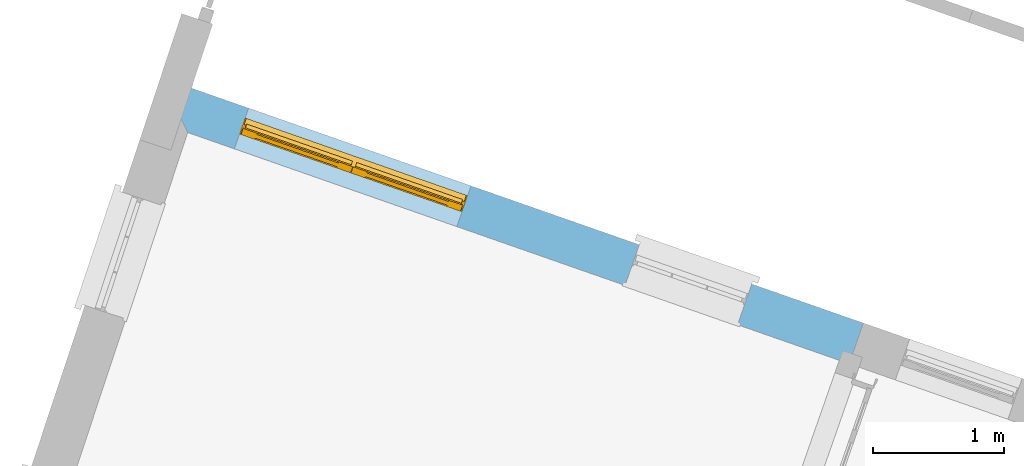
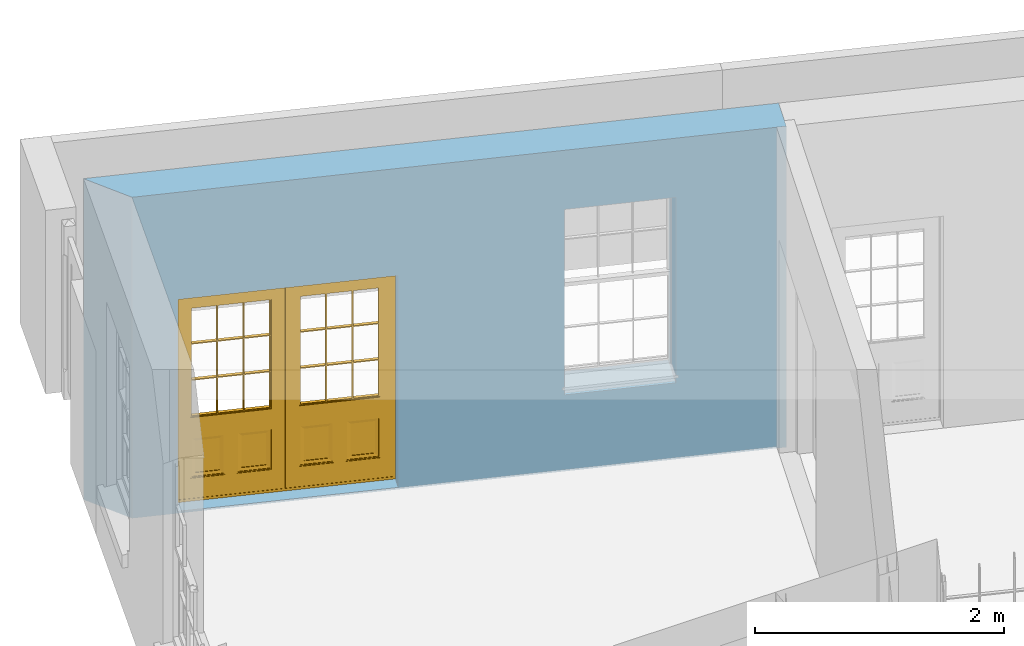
# One storey, part 8 of 10: 1 door, 2 openings, plus 1 element that does not belong to this part.
"""IFC4 building model written with IfcOpenShell, lengths in metres."""

from ifc_helpers import new_model, si_unit, frame, origin, origin_with_axes, place, context, subcontext, project, spatial, polyline, outline, extrude, faceted_brep, source, transform, mapped, material, layer, layer_set, layer_usage, type_object, type_shapes, element, fill, save


model = new_model("IFC4")

# Units and contexts
model_context = context("Model", 3, world=origin_with_axes())
body_context = subcontext(model_context, "Body", "Model", "MODEL_VIEW")
ifc_project = project(units=[si_unit("PLANEANGLEUNIT", "RADIAN"), si_unit("MASSUNIT", "GRAM", prefix="KILO"), si_unit("FORCEUNIT", "NEWTON", prefix="KILO"), si_unit("LENGTHUNIT", "METRE"), si_unit("AREAUNIT", "SQUARE_METRE"), si_unit("VOLUMEUNIT", "CUBIC_METRE")], contexts=[model_context, model_context])

# Sites, building, storey
site_1_placement = place(None, origin_with_axes())
site_1 = spatial("IfcSite", under=ifc_project, at=site_1_placement, Name="Tamar")
site_2_placement = place(site_1_placement, origin_with_axes())
site_2 = spatial("IfcSite", under=site_1, at=site_2_placement, Name="Site plot-15", CompositionType="ELEMENT")
building_placement = place(None, origin_with_axes())
building = spatial("IfcBuilding", under=site_2, at=building_placement, Name="Building plot-15", CompositionType="ELEMENT")
storey_placement = place(None, frame((0.0, 0.0, 26.8), z_axis=(0.0, 0.0, 1.0), x_axis=(1.0, 0.0, 0.0)))
storey = spatial("IfcBuildingStorey", under=building, at=storey_placement, Name="plot-15 0", CompositionType="ELEMENT", Elevation=26.8)

# Wall, openings, door
ifc_material = material(Name="Masonry")
ifc_layer = layer(ifc_material, 0.33, ventilated=False)
ifc_layer_set = layer_set([ifc_layer], Name="exterior_0.08_0.25")
ifc_layer_usage = layer_usage(ifc_layer_set, "AXIS2", "POSITIVE", -0.25)
wall_type = type_object("IfcWallType", Name="exterior_0.08_0.25", PredefinedType="SOLIDWALL", material=ifc_layer_set)
wall_placement = place(storey_placement, frame((263.78081158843, 309.226685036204, 0.0), z_axis=(0.0, 0.0, 1.0), x_axis=(-0.943980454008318, 0.330001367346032, 0.0)))
wall = element("IfcWall", 1, at=wall_placement, inside=storey, type_object=wall_type, material=ifc_layer_usage, Name="exterior", context=body_context, shape_type="SweptSolid", body=[
    extrude(outline(polyline([(-1.12572037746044e-14, 0.0800000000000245), (-6.03540739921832e-15, -0.250000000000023), (5.68693408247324, -0.250000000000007), (5.3516759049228, 0.0800000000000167), (-1.12572037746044e-14, 0.0800000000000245)])), origin_with_axes(), (0.0, 0.0, 1.0), 3.15),
])
opening_1_placement = place(wall_placement, frame((0.90323765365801, 0.0, 0.75)))
element("IfcOpeningElement", 2, at=opening_1_placement, cuts=wall, Name="My Opening", ObjectType="Opening", context=body_context, shape_type="SweptSolid", body=[
    extrude(outline(polyline([(0.0, -0.270000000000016), (0.909999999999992, -0.269999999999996), (0.909999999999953, 1.10000000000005), (-3.8746783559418e-14, 1.10000000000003), (0.0, -0.270000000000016)])), origin_with_axes(), (0.0, 0.0, 1.0), 1.82),
])
opening_2_placement = place(wall_placement, frame((3.17471296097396, 0.0, 0.0199999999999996)))
opening_2 = element("IfcOpeningElement", 3, at=opening_2_placement, cuts=wall, Name="My Opening", ObjectType="Opening", context=body_context, shape_type="SweptSolid", body=[
    extrude(outline(polyline([(0.0, -0.270000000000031), (1.8, -0.27), (1.79999999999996, 1.10000000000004), (-3.90798504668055e-14, 1.10000000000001), (0.0, -0.270000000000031)])), origin_with_axes(), (0.0, 0.0, 1.0), 2.08),
])
door_type = type_object("IfcDoorType", Name="door_panelled_double", OperationType="SINGLE_SWING_LEFT", PredefinedType="NOTDEFINED")
shared_shape = source(origin(), body_context, "Body", "Brep", [
    faceted_brep([(0.545, 0.195, 0.265), (0.745, 0.195, 0.265), (0.745, 0.2, 0.265), (0.545, 0.2, 0.265), (0.745, 0.2, 0.58), (0.545, 0.2, 0.58), (0.545, 0.195, 0.58), (0.515, 0.19, 0.235), (0.775, 0.19, 0.235), (0.745, 0.195, 0.58), (0.515, 0.19, 0.61), (0.515, 0.185, 0.235), (0.775, 0.185, 0.235), (0.775, 0.19, 0.61), (0.515, 0.185, 0.61), (0.785, 0.185, 0.225), (0.505, 0.185, 0.225), (0.775, 0.185, 0.61), (0.505, 0.185, 0.62), (0.785, 0.185, 0.62), (0.505, 0.18, 0.225), (0.785, 0.18, 0.225), (0.505, 0.18, 0.62), (0.785, 0.18, 0.62), (0.883, 0.18, 0.075), (0.898, 0.18, 0.075), (0.405, 0.18, 0.62), (0.405, 0.18, 0.225), (0.027, 0.18, 0.075), (0.785, 0.18, 0.82), (0.125, 0.18, 0.82), (0.405, 0.185, 0.62), (0.405, 0.185, 0.225), (0.898, 0.18, 2.068), (0.027, 0.17, 0.075), (0.883, 0.17, 0.075), (0.125, 0.18, 0.225), (0.012, 0.18, 0.075), (0.785, 0.19, 0.82), (0.125, 0.19, 0.82), (0.125, 0.18, 0.62), (0.125, 0.185, 0.62), (0.395, 0.185, 0.61), (0.395, 0.185, 0.235), (0.125, 0.185, 0.225), (0.785, 0.18, 1.895), (0.027, 0.14, 0.045), (0.883, 0.14, 0.045), (0.558333, 0.19, 0.83), (0.351667, 0.19, 0.83), (0.125, 0.18, 1.895), (0.125, 0.19, 1.895), (0.785, 0.19, 1.895), (0.012, 0.18, 2.068), (0.135, 0.185, 0.61), (0.395, 0.19, 0.61), (0.395, 0.19, 0.235), (0.135, 0.185, 0.235), (0.027, 0.14, 0.027), (0.883, 0.14, 0.027), (0.568333, 0.19, 0.83), (0.558333, 0.22, 0.83), (0.351667, 0.22, 0.83), (0.341667, 0.19, 0.83), (0.135, 0.19, 1.185), (0.135, 0.19, 1.53), (0.775, 0.19, 1.53), (0.775, 0.19, 1.185), (0.135, 0.19, 0.61), (0.365, 0.195, 0.58), (0.365, 0.195, 0.265), (0.135, 0.19, 0.235), (0.568333, 0.19, 1.175), (0.558333, 0.19, 1.175), (0.775, 0.19, 0.83), (0.558333, 0.22, 1.175), (0.785, 0.22, 0.82), (0.125, 0.22, 0.82), (0.351667, 0.22, 1.175), (0.351667, 0.19, 1.175), (0.341667, 0.19, 1.175), (0.135, 0.19, 0.83), (0.135, 0.19, 1.175), (0.135, 0.22, 1.185), (0.135, 0.22, 1.53), (0.135, 0.19, 1.54), (0.351667, 0.19, 1.885), (0.558333, 0.19, 1.885), (0.775, 0.22, 1.53), (0.775, 0.22, 1.185), (0.775, 0.19, 1.175), (0.775, 0.19, 1.54), (0.165, 0.195, 0.58), (0.365, 0.2, 0.58), (0.365, 0.2, 0.265), (0.165, 0.195, 0.265), (0.568333, 0.22, 0.83), (0.568333, 0.22, 1.175), (0.568333, 0.19, 1.185), (0.558333, 0.19, 1.185), (0.775, 0.22, 0.83), (0.785, 0.23, 0.82), (0.125, 0.23, 0.82), (0.341667, 0.22, 0.83), (0.341667, 0.22, 1.175), (0.351667, 0.19, 1.185), (0.341667, 0.19, 1.185), (0.135, 0.22, 0.83), (0.341667, 0.22, 1.185), (0.125, 0.22, 1.895), (0.341667, 0.22, 1.53), (0.341667, 0.19, 1.53), (0.135, 0.19, 1.885), (0.341667, 0.19, 1.54), (0.341667, 0.19, 1.885), (0.558333, 0.22, 1.885), (0.351667, 0.22, 1.885), (0.568333, 0.19, 1.885), (0.785, 0.22, 1.895), (0.568333, 0.22, 1.185), (0.568333, 0.19, 1.53), (0.568333, 0.22, 1.53), (0.568333, 0.19, 1.54), (0.775, 0.19, 1.885), (0.165, 0.2, 0.58), (0.165, 0.2, 0.265), (0.775, 0.22, 1.175), (0.558333, 0.19, 1.53), (0.351667, 0.22, 1.185), (0.558333, 0.22, 1.185), (0.505, 0.23, 0.62), (0.405, 0.23, 0.62), (0.125, 0.23, 1.895), (0.785, 0.23, 1.895), (0.351667, 0.19, 1.53), (0.135, 0.22, 1.175), (0.135, 0.22, 1.54), (0.341667, 0.22, 1.54), (0.135, 0.22, 1.885), (0.351667, 0.19, 1.54), (0.558333, 0.22, 1.54), (0.558333, 0.19, 1.54), (0.351667, 0.22, 1.54), (0.775, 0.22, 1.54), (0.568333, 0.22, 1.54), (0.775, 0.22, 1.885), (0.558333, 0.22, 1.53), (0.405, 0.23, 0.225), (0.505, 0.23, 0.225), (0.125, 0.23, 0.62), (0.785, 0.23, 0.62), (0.012, 0.23, 2.068), (0.898, 0.23, 2.068), (0.351667, 0.22, 1.53), (0.341667, 0.22, 1.885), (0.568333, 0.22, 1.885), (0.405, 0.225, 0.225), (0.405, 0.225, 0.62), (0.505, 0.225, 0.62), (0.505, 0.225, 0.225), (0.898, 0.23, 0.027), (0.012, 0.23, 0.027), (0.125, 0.225, 0.62), (0.785, 0.225, 0.62), (0.395, 0.225, 0.235), (0.395, 0.225, 0.61), (0.125, 0.23, 0.225), (0.125, 0.225, 0.225), (0.515, 0.225, 0.61), (0.515, 0.225, 0.235), (0.785, 0.23, 0.225), (0.785, 0.225, 0.225), (0.135, 0.225, 0.61), (0.775, 0.225, 0.61), (0.135, 0.225, 0.235), (0.395, 0.22, 0.235), (0.395, 0.22, 0.61), (0.515, 0.22, 0.61), (0.515, 0.22, 0.235), (0.775, 0.225, 0.235), (0.135, 0.22, 0.61), (0.775, 0.22, 0.61), (0.135, 0.22, 0.235), (0.365, 0.215, 0.265), (0.365, 0.215, 0.58), (0.545, 0.215, 0.58), (0.545, 0.215, 0.265), (0.775, 0.22, 0.235), (0.165, 0.215, 0.58), (0.745, 0.215, 0.58), (0.165, 0.215, 0.265), (0.365, 0.21, 0.58), (0.365, 0.21, 0.265), (0.545, 0.21, 0.58), (0.545, 0.21, 0.265), (0.745, 0.215, 0.265), (0.165, 0.21, 0.58), (0.745, 0.21, 0.58), (0.165, 0.21, 0.265), (0.745, 0.21, 0.265), (1.775, 0.178, 0.025), (0.025, 0.178, 0.025), (0.025, 0.15, 0.025), (1.775, 0.15, 0.025), (1.79, 0.23, 0.025), (0.01, 0.23, 0.025), (1.79, 0.178, 0.025), (1.8, 0.23, 0.0), (0.0, 0.23, 0.0), (0.01, 0.178, 0.025), (1.79, 0.178, 2.07), (1.79, 0.23, 2.07), (1.775, 0.178, 2.055), (1.8, 0.23, 2.08), (0.01, 0.23, 2.07), (0.0, 0.23, 2.08), (0.01, 0.178, 2.07), (0.025, 0.178, 2.055), (0.0, 0.1, 2.08), (1.8, 0.1, 2.08), (0.01, 0.1, 2.07), (1.79, 0.1, 2.07), (0.01, 0.15, 2.07), (1.79, 0.15, 2.07), (0.0, 0.1, 0.0), (1.8, 0.1, 0.0), (0.01, 0.1, 0.025), (1.79, 0.1, 0.025), (0.01, 0.15, 0.025), (0.025, 0.15, 2.055), (1.79, 0.15, 0.025), (1.775, 0.15, 2.055), (0.898, 0.18, 0.027), (0.012, 0.18, 0.027), (0.883, 0.18, 0.027), (0.027, 0.18, 0.027), (1.435, 0.195, 0.265), (1.635, 0.195, 0.265), (1.635, 0.2, 0.265), (1.435, 0.2, 0.265), (1.635, 0.2, 0.58), (1.435, 0.2, 0.58), (1.435, 0.195, 0.58), (1.405, 0.19, 0.235), (1.665, 0.19, 0.235), (1.635, 0.195, 0.58), (1.405, 0.19, 0.61), (1.405, 0.185, 0.235), (1.665, 0.185, 0.235), (1.665, 0.19, 0.61), (1.405, 0.185, 0.61), (1.675, 0.185, 0.225), (1.395, 0.185, 0.225), (1.665, 0.185, 0.61), (1.395, 0.185, 0.62), (1.675, 0.185, 0.62), (1.395, 0.18, 0.225), (1.675, 0.18, 0.225), (1.395, 0.18, 0.62), (1.675, 0.18, 0.62), (1.773, 0.18, 0.075), (1.788, 0.18, 0.075), (1.295, 0.18, 0.62), (1.295, 0.18, 0.225), (0.917, 0.18, 0.075), (1.675, 0.18, 0.82), (1.015, 0.18, 0.82), (1.295, 0.185, 0.62), (1.295, 0.185, 0.225), (1.788, 0.18, 2.068), (0.917, 0.17, 0.075), (1.773, 0.17, 0.075), (1.015, 0.18, 0.225), (0.902, 0.18, 0.075), (1.675, 0.19, 0.82), (1.015, 0.19, 0.82), (1.015, 0.18, 0.62), (1.015, 0.185, 0.62), (1.285, 0.185, 0.61), (1.285, 0.185, 0.235), (1.015, 0.185, 0.225), (1.675, 0.18, 1.895), (0.917, 0.14, 0.045), (1.773, 0.14, 0.045), (1.448333, 0.19, 0.83), (1.241667, 0.19, 0.83), (1.015, 0.18, 1.895), (1.015, 0.19, 1.895), (1.675, 0.19, 1.895), (0.902, 0.18, 2.068), (1.025, 0.185, 0.61), (1.285, 0.19, 0.61), (1.285, 0.19, 0.235), (1.025, 0.185, 0.235), (0.917, 0.14, 0.027), (1.773, 0.14, 0.027), (1.458333, 0.19, 0.83), (1.448333, 0.22, 0.83), (1.241667, 0.22, 0.83), (1.231667, 0.19, 0.83), (1.025, 0.19, 1.185), (1.025, 0.19, 1.53), (1.665, 0.19, 1.53), (1.665, 0.19, 1.185), (1.025, 0.19, 0.61), (1.255, 0.195, 0.58), (1.255, 0.195, 0.265), (1.025, 0.19, 0.235), (1.458333, 0.19, 1.175), (1.448333, 0.19, 1.175), (1.665, 0.19, 0.83), (1.448333, 0.22, 1.175), (1.675, 0.22, 0.82), (1.015, 0.22, 0.82), (1.241667, 0.22, 1.175), (1.241667, 0.19, 1.175), (1.231667, 0.19, 1.175), (1.025, 0.19, 0.83), (1.025, 0.19, 1.175), (1.025, 0.22, 1.185), (1.025, 0.22, 1.53), (1.025, 0.19, 1.54), (1.241667, 0.19, 1.885), (1.448333, 0.19, 1.885), (1.665, 0.22, 1.53), (1.665, 0.22, 1.185), (1.665, 0.19, 1.175), (1.665, 0.19, 1.54), (1.055, 0.195, 0.58), (1.255, 0.2, 0.58), (1.255, 0.2, 0.265), (1.055, 0.195, 0.265), (1.458333, 0.22, 0.83), (1.458333, 0.22, 1.175), (1.458333, 0.19, 1.185), (1.448333, 0.19, 1.185), (1.665, 0.22, 0.83), (1.675, 0.23, 0.82), (1.015, 0.23, 0.82), (1.231667, 0.22, 0.83), (1.231667, 0.22, 1.175), (1.241667, 0.19, 1.185), (1.231667, 0.19, 1.185), (1.025, 0.22, 0.83), (1.231667, 0.22, 1.185), (1.015, 0.22, 1.895), (1.231667, 0.22, 1.53), (1.231667, 0.19, 1.53), (1.025, 0.19, 1.885), (1.231667, 0.19, 1.54), (1.231667, 0.19, 1.885), (1.448333, 0.22, 1.885), (1.241667, 0.22, 1.885), (1.458333, 0.19, 1.885), (1.675, 0.22, 1.895), (1.458333, 0.22, 1.185), (1.458333, 0.19, 1.53), (1.458333, 0.22, 1.53), (1.458333, 0.19, 1.54), (1.665, 0.19, 1.885), (1.055, 0.2, 0.58), (1.055, 0.2, 0.265), (1.665, 0.22, 1.175), (1.448333, 0.19, 1.53), (1.241667, 0.22, 1.185), (1.448333, 0.22, 1.185), (1.395, 0.23, 0.62), (1.295, 0.23, 0.62), (1.015, 0.23, 1.895), (1.675, 0.23, 1.895), (1.241667, 0.19, 1.53), (1.025, 0.22, 1.175), (1.025, 0.22, 1.54), (1.231667, 0.22, 1.54), (1.025, 0.22, 1.885), (1.241667, 0.19, 1.54), (1.448333, 0.22, 1.54), (1.448333, 0.19, 1.54), (1.241667, 0.22, 1.54), (1.665, 0.22, 1.54), (1.458333, 0.22, 1.54), (1.665, 0.22, 1.885), (1.448333, 0.22, 1.53), (1.295, 0.23, 0.225), (1.395, 0.23, 0.225), (1.015, 0.23, 0.62), (1.675, 0.23, 0.62), (0.902, 0.23, 2.068), (1.788, 0.23, 2.068), (1.241667, 0.22, 1.53), (1.231667, 0.22, 1.885), (1.458333, 0.22, 1.885), (1.295, 0.225, 0.225), (1.295, 0.225, 0.62), (1.395, 0.225, 0.62), (1.395, 0.225, 0.225), (1.788, 0.23, 0.027), (0.902, 0.23, 0.027), (1.015, 0.225, 0.62), (1.675, 0.225, 0.62), (1.285, 0.225, 0.235), (1.285, 0.225, 0.61), (1.015, 0.23, 0.225), (1.015, 0.225, 0.225), (1.405, 0.225, 0.61), (1.405, 0.225, 0.235), (1.675, 0.23, 0.225), (1.675, 0.225, 0.225), (1.025, 0.225, 0.61), (1.665, 0.225, 0.61), (1.025, 0.225, 0.235), (1.285, 0.22, 0.235), (1.285, 0.22, 0.61), (1.405, 0.22, 0.61), (1.405, 0.22, 0.235), (1.665, 0.225, 0.235), (1.025, 0.22, 0.61), (1.665, 0.22, 0.61), (1.025, 0.22, 0.235), (1.255, 0.215, 0.265), (1.255, 0.215, 0.58), (1.435, 0.215, 0.58), (1.435, 0.215, 0.265), (1.665, 0.22, 0.235), (1.055, 0.215, 0.58), (1.635, 0.215, 0.58), (1.055, 0.215, 0.265), (1.255, 0.21, 0.58), (1.255, 0.21, 0.265), (1.435, 0.21, 0.58), (1.435, 0.21, 0.265), (1.635, 0.215, 0.265), (1.055, 0.21, 0.58), (1.635, 0.21, 0.58), (1.055, 0.21, 0.265), (1.635, 0.21, 0.265), (1.788, 0.18, 0.027), (0.902, 0.18, 0.027), (1.773, 0.18, 0.027), (0.917, 0.18, 0.027)], [[[0, 1, 2, 3]], [[2, 4, 5, 3]], [[0, 3, 5, 6]], [[1, 0, 7, 8]], [[9, 4, 2, 1]], [[9, 6, 5, 4]], [[0, 6, 10, 7]], [[8, 7, 11, 12]], [[8, 13, 9, 1]], [[13, 10, 6, 9]], [[7, 10, 14, 11]], [[15, 12, 11, 16]], [[12, 17, 13, 8]], [[17, 14, 10, 13]], [[18, 16, 11, 14]], [[15, 19, 17, 12]], [[15, 16, 20, 21]], [[14, 17, 19, 18]], [[16, 18, 22, 20]], [[21, 23, 19, 15]], [[24, 25, 21, 20]], [[23, 22, 18, 19]], [[20, 22, 26, 27]], [[23, 21, 25]], [[28, 24, 20, 27]], [[22, 23, 29]], [[29, 30, 26, 22]], [[27, 26, 31, 32]], [[23, 25, 33, 29]], [[34, 35, 24, 28]], [[28, 27, 36, 37]], [[38, 39, 30, 29]], [[26, 30, 40]], [[26, 40, 41, 31]], [[42, 43, 32, 31]], [[32, 44, 36, 27]], [[33, 45, 29]], [[46, 47, 35, 34]], [[36, 40, 37]], [[39, 38, 48, 49]], [[50, 30, 39, 51]], [[29, 45, 52, 38]], [[53, 37, 40, 30]], [[44, 41, 40, 36]], [[31, 41, 54, 42]], [[43, 42, 55, 56]], [[57, 44, 32, 43]], [[50, 45, 33, 53]], [[47, 46, 58, 59]], [[60, 48, 38]], [[49, 48, 61, 62]], [[49, 63, 39]], [[50, 53, 30]], [[51, 39, 64, 65]], [[45, 50, 51, 52]], [[66, 67, 38, 52]], [[57, 54, 41, 44]], [[42, 54, 68, 55]], [[56, 55, 69, 70]], [[56, 71, 57, 43]], [[60, 72, 73, 48]], [[60, 38, 74]], [[48, 73, 75, 61]], [[76, 77, 62, 61]], [[62, 78, 79, 49]], [[49, 79, 80, 63]], [[63, 81, 39]], [[82, 64, 39]], [[65, 64, 83, 84]], [[85, 51, 65]], [[52, 51, 86, 87]], [[88, 89, 67, 66]], [[90, 38, 67]], [[91, 66, 52]], [[71, 68, 54, 57]], [[55, 68, 92, 69]], [[69, 93, 94, 70]], [[70, 95, 71, 56]], [[96, 97, 72, 60]], [[73, 72, 98, 99]], [[74, 38, 90]], [[100, 96, 60, 74]], [[75, 73, 79, 78]], [[61, 75, 97, 96]], [[101, 102, 77, 76]], [[77, 103, 62]], [[96, 76, 61]], [[103, 104, 78, 62]], [[80, 79, 105, 106]], [[63, 80, 104, 103]], [[81, 63, 103, 107]], [[81, 82, 39]], [[106, 64, 82, 80]], [[106, 108, 83, 64]], [[84, 83, 77, 109]], [[110, 111, 65, 84]], [[112, 51, 85]], [[113, 85, 65, 111]], [[114, 86, 51]], [[115, 87, 86, 116]], [[117, 52, 87]], [[118, 76, 89, 88]], [[119, 98, 67, 89]], [[120, 121, 88, 66]], [[67, 98, 72, 90]], [[91, 122, 120, 66]], [[91, 52, 123]], [[95, 92, 68, 71]], [[69, 92, 124, 93]], [[94, 93, 124, 125]], [[94, 125, 95, 70]], [[72, 97, 126, 90]], [[127, 99, 98, 120]], [[99, 105, 79, 73]], [[74, 90, 126, 100]], [[96, 100, 76]], [[128, 129, 75, 78]], [[97, 75, 129, 119]], [[130, 131, 102, 101]], [[109, 77, 102, 132]], [[133, 101, 76, 118]], [[77, 107, 103]], [[78, 104, 108, 128]], [[111, 106, 105, 134]], [[104, 80, 82, 135]], [[107, 135, 82, 81]], [[110, 108, 106, 111]], [[104, 135, 83, 108]], [[83, 135, 77]], [[136, 84, 109]], [[110, 84, 136, 137]], [[114, 51, 112]], [[85, 136, 138, 112]], [[113, 137, 136, 85]], [[111, 134, 139, 113]], [[86, 114, 113, 139]], [[140, 141, 87, 115]], [[139, 142, 116, 86]], [[109, 118, 115, 116]], [[117, 123, 52]], [[117, 87, 141, 122]], [[126, 89, 76]], [[143, 118, 88]], [[120, 98, 119, 121]], [[119, 89, 126, 97]], [[144, 143, 88, 121]], [[144, 122, 91, 143]], [[127, 120, 122, 141]], [[143, 91, 123, 145]], [[124, 92, 95, 125]], [[146, 129, 99, 127]], [[99, 129, 128, 105]], [[100, 126, 76]], [[121, 119, 129, 146]], [[147, 131, 130, 148]], [[131, 149, 102]], [[130, 101, 150]], [[102, 151, 132]], [[118, 109, 132, 133]], [[101, 133, 152]], [[107, 77, 135]], [[153, 128, 108, 110]], [[134, 105, 128, 153]], [[109, 138, 136]], [[153, 110, 137, 142]], [[154, 114, 112, 138]], [[137, 113, 114, 154]], [[141, 139, 134, 127]], [[141, 140, 142, 139]], [[144, 140, 115, 155]], [[142, 137, 154, 116]], [[155, 115, 118]], [[116, 154, 109]], [[117, 155, 145, 123]], [[122, 144, 155, 117]], [[143, 145, 118]], [[121, 146, 140, 144]], [[146, 127, 134, 153]], [[156, 157, 131, 147]], [[148, 130, 158, 159]], [[148, 160, 161, 147]], [[157, 162, 149, 131]], [[161, 151, 102, 149]], [[101, 152, 160, 150]], [[163, 158, 130, 150]], [[151, 152, 133, 132]], [[154, 138, 109]], [[142, 140, 146, 153]], [[145, 155, 118]], [[157, 156, 164, 165]], [[147, 166, 167, 156]], [[168, 169, 159, 158]], [[170, 148, 159, 171]], [[148, 170, 160]], [[166, 147, 161]], [[172, 162, 157, 165]], [[166, 149, 162, 167]], [[166, 161, 149]], [[150, 160, 170]], [[163, 173, 168, 158]], [[171, 163, 150, 170]], [[174, 164, 156, 167]], [[175, 176, 165, 164]], [[169, 168, 177, 178]], [[171, 159, 169, 179]], [[167, 162, 172, 174]], [[176, 180, 172, 165]], [[179, 173, 163, 171]], [[181, 177, 168, 173]], [[164, 174, 182, 175]], [[183, 184, 176, 175]], [[178, 177, 185, 186]], [[179, 169, 178, 187]], [[174, 172, 180, 182]], [[184, 188, 180, 176]], [[187, 181, 173, 179]], [[189, 185, 177, 181]], [[175, 182, 190, 183]], [[191, 184, 183, 192]], [[185, 193, 194, 186]], [[187, 178, 186, 195]], [[182, 180, 188, 190]], [[191, 196, 188, 184]], [[195, 189, 181, 187]], [[197, 193, 185, 189]], [[183, 190, 198, 192]], [[198, 196, 191, 192]], [[194, 193, 197, 199]], [[195, 186, 194, 199]], [[188, 196, 198, 190]], [[197, 189, 195, 199]], [[200, 201, 202, 203]], [[201, 200, 204, 205]], [[206, 204, 200]], [[204, 207, 208, 205]], [[209, 201, 205]], [[210, 211, 204, 206]], [[206, 200, 212, 210]], [[211, 213, 207, 204]], [[214, 205, 208, 215]], [[216, 217, 201, 209]], [[205, 214, 216, 209]], [[216, 214, 211, 210]], [[210, 212, 217, 216]], [[214, 215, 213, 211]], [[218, 219, 213, 215]], [[219, 218, 220, 221]], [[221, 220, 222, 223]], [[215, 208, 224, 218]], [[225, 224, 208, 207]], [[224, 226, 220, 218]], [[224, 225, 227, 226]], [[219, 225, 207, 213]], [[228, 222, 220, 226]], [[219, 221, 227, 225]], [[226, 227, 203, 202]], [[202, 229, 222, 228]], [[228, 226, 202]], [[227, 221, 223, 230]], [[230, 203, 227]], [[217, 229, 202, 201]], [[231, 223, 222, 229]], [[230, 223, 231, 203]], [[231, 229, 217, 212]], [[212, 200, 203, 231]], [[33, 152, 151, 53]], [[25, 160, 152, 33]], [[161, 37, 53, 151]], [[232, 160, 25]], [[161, 233, 37]], [[160, 232, 234]], [[24, 234, 232, 25]], [[233, 161, 235]], [[37, 233, 235, 28]], [[161, 160, 234, 235]], [[35, 47, 234, 24]], [[28, 235, 46, 34]], [[58, 235, 234, 59]], [[59, 234, 47]], [[58, 46, 235]], [[236, 237, 238, 239]], [[238, 240, 241, 239]], [[236, 239, 241, 242]], [[237, 236, 243, 244]], [[245, 240, 238, 237]], [[245, 242, 241, 240]], [[236, 242, 246, 243]], [[244, 243, 247, 248]], [[244, 249, 245, 237]], [[249, 246, 242, 245]], [[243, 246, 250, 247]], [[251, 248, 247, 252]], [[248, 253, 249, 244]], [[253, 250, 246, 249]], [[254, 252, 247, 250]], [[251, 255, 253, 248]], [[251, 252, 256, 257]], [[250, 253, 255, 254]], [[252, 254, 258, 256]], [[257, 259, 255, 251]], [[260, 261, 257, 256]], [[259, 258, 254, 255]], [[256, 258, 262, 263]], [[259, 257, 261]], [[264, 260, 256, 263]], [[258, 259, 265]], [[265, 266, 262, 258]], [[263, 262, 267, 268]], [[259, 261, 269, 265]], [[270, 271, 260, 264]], [[264, 263, 272, 273]], [[274, 275, 266, 265]], [[262, 266, 276]], [[262, 276, 277, 267]], [[278, 279, 268, 267]], [[268, 280, 272, 263]], [[269, 281, 265]], [[282, 283, 271, 270]], [[272, 276, 273]], [[275, 274, 284, 285]], [[286, 266, 275, 287]], [[265, 281, 288, 274]], [[289, 273, 276, 266]], [[280, 277, 276, 272]], [[267, 277, 290, 278]], [[279, 278, 291, 292]], [[293, 280, 268, 279]], [[286, 281, 269, 289]], [[283, 282, 294, 295]], [[296, 284, 274]], [[285, 284, 297, 298]], [[285, 299, 275]], [[286, 289, 266]], [[287, 275, 300, 301]], [[281, 286, 287, 288]], [[302, 303, 274, 288]], [[293, 290, 277, 280]], [[278, 290, 304, 291]], [[292, 291, 305, 306]], [[292, 307, 293, 279]], [[296, 308, 309, 284]], [[296, 274, 310]], [[284, 309, 311, 297]], [[312, 313, 298, 297]], [[298, 314, 315, 285]], [[285, 315, 316, 299]], [[299, 317, 275]], [[318, 300, 275]], [[301, 300, 319, 320]], [[321, 287, 301]], [[288, 287, 322, 323]], [[324, 325, 303, 302]], [[326, 274, 303]], [[327, 302, 288]], [[307, 304, 290, 293]], [[291, 304, 328, 305]], [[305, 329, 330, 306]], [[306, 331, 307, 292]], [[332, 333, 308, 296]], [[309, 308, 334, 335]], [[310, 274, 326]], [[336, 332, 296, 310]], [[311, 309, 315, 314]], [[297, 311, 333, 332]], [[337, 338, 313, 312]], [[313, 339, 298]], [[332, 312, 297]], [[339, 340, 314, 298]], [[316, 315, 341, 342]], [[299, 316, 340, 339]], [[317, 299, 339, 343]], [[317, 318, 275]], [[342, 300, 318, 316]], [[342, 344, 319, 300]], [[320, 319, 313, 345]], [[346, 347, 301, 320]], [[348, 287, 321]], [[349, 321, 301, 347]], [[350, 322, 287]], [[351, 323, 322, 352]], [[353, 288, 323]], [[354, 312, 325, 324]], [[355, 334, 303, 325]], [[356, 357, 324, 302]], [[303, 334, 308, 326]], [[327, 358, 356, 302]], [[327, 288, 359]], [[331, 328, 304, 307]], [[305, 328, 360, 329]], [[330, 329, 360, 361]], [[330, 361, 331, 306]], [[308, 333, 362, 326]], [[363, 335, 334, 356]], [[335, 341, 315, 309]], [[310, 326, 362, 336]], [[332, 336, 312]], [[364, 365, 311, 314]], [[333, 311, 365, 355]], [[366, 367, 338, 337]], [[345, 313, 338, 368]], [[369, 337, 312, 354]], [[313, 343, 339]], [[314, 340, 344, 364]], [[347, 342, 341, 370]], [[340, 316, 318, 371]], [[343, 371, 318, 317]], [[346, 344, 342, 347]], [[340, 371, 319, 344]], [[319, 371, 313]], [[372, 320, 345]], [[346, 320, 372, 373]], [[350, 287, 348]], [[321, 372, 374, 348]], [[349, 373, 372, 321]], [[347, 370, 375, 349]], [[322, 350, 349, 375]], [[376, 377, 323, 351]], [[375, 378, 352, 322]], [[345, 354, 351, 352]], [[353, 359, 288]], [[353, 323, 377, 358]], [[362, 325, 312]], [[379, 354, 324]], [[356, 334, 355, 357]], [[355, 325, 362, 333]], [[380, 379, 324, 357]], [[380, 358, 327, 379]], [[363, 356, 358, 377]], [[379, 327, 359, 381]], [[360, 328, 331, 361]], [[382, 365, 335, 363]], [[335, 365, 364, 341]], [[336, 362, 312]], [[357, 355, 365, 382]], [[383, 367, 366, 384]], [[367, 385, 338]], [[366, 337, 386]], [[338, 387, 368]], [[354, 345, 368, 369]], [[337, 369, 388]], [[343, 313, 371]], [[389, 364, 344, 346]], [[370, 341, 364, 389]], [[345, 374, 372]], [[389, 346, 373, 378]], [[390, 350, 348, 374]], [[373, 349, 350, 390]], [[377, 375, 370, 363]], [[377, 376, 378, 375]], [[380, 376, 351, 391]], [[378, 373, 390, 352]], [[391, 351, 354]], [[352, 390, 345]], [[353, 391, 381, 359]], [[358, 380, 391, 353]], [[379, 381, 354]], [[357, 382, 376, 380]], [[382, 363, 370, 389]], [[392, 393, 367, 383]], [[384, 366, 394, 395]], [[384, 396, 397, 383]], [[393, 398, 385, 367]], [[397, 387, 338, 385]], [[337, 388, 396, 386]], [[399, 394, 366, 386]], [[387, 388, 369, 368]], [[390, 374, 345]], [[378, 376, 382, 389]], [[381, 391, 354]], [[393, 392, 400, 401]], [[383, 402, 403, 392]], [[404, 405, 395, 394]], [[406, 384, 395, 407]], [[384, 406, 396]], [[402, 383, 397]], [[408, 398, 393, 401]], [[402, 385, 398, 403]], [[402, 397, 385]], [[386, 396, 406]], [[399, 409, 404, 394]], [[407, 399, 386, 406]], [[410, 400, 392, 403]], [[411, 412, 401, 400]], [[405, 404, 413, 414]], [[407, 395, 405, 415]], [[403, 398, 408, 410]], [[412, 416, 408, 401]], [[415, 409, 399, 407]], [[417, 413, 404, 409]], [[400, 410, 418, 411]], [[419, 420, 412, 411]], [[414, 413, 421, 422]], [[415, 405, 414, 423]], [[410, 408, 416, 418]], [[420, 424, 416, 412]], [[423, 417, 409, 415]], [[425, 421, 413, 417]], [[411, 418, 426, 419]], [[427, 420, 419, 428]], [[421, 429, 430, 422]], [[423, 414, 422, 431]], [[418, 416, 424, 426]], [[427, 432, 424, 420]], [[431, 425, 417, 423]], [[433, 429, 421, 425]], [[419, 426, 434, 428]], [[434, 432, 427, 428]], [[430, 429, 433, 435]], [[431, 422, 430, 435]], [[424, 432, 434, 426]], [[433, 425, 431, 435]], [[269, 388, 387, 289]], [[261, 396, 388, 269]], [[397, 273, 289, 387]], [[436, 396, 261]], [[397, 437, 273]], [[396, 436, 438]], [[260, 438, 436, 261]], [[437, 397, 439]], [[273, 437, 439, 264]], [[397, 396, 438, 439]], [[271, 283, 438, 260]], [[264, 439, 282, 270]], [[294, 439, 438, 295]], [[295, 438, 283]], [[294, 282, 439]]]),
])
type_shapes(door_type, [shared_shape])
door_placement = place(storey_placement, frame((260.873044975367, 310.529219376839, 0.0199999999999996), z_axis=(0.0, 0.0, 1.0), x_axis=(-1.69916481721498, 0.594002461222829, 0.0)))
door = element("IfcDoor", 4, at=door_placement, inside=storey, type_object=door_type, Name="living sahn door", OverallHeight=2.08, OverallWidth=1.8, context=body_context, shape_type="MappedRepresentation", body=[
    mapped(shared_shape, transform((0.0, 0.0, 0.0), scale=1.0)),
])
fill(opening_2, door)

save(model, "model.ifc")
